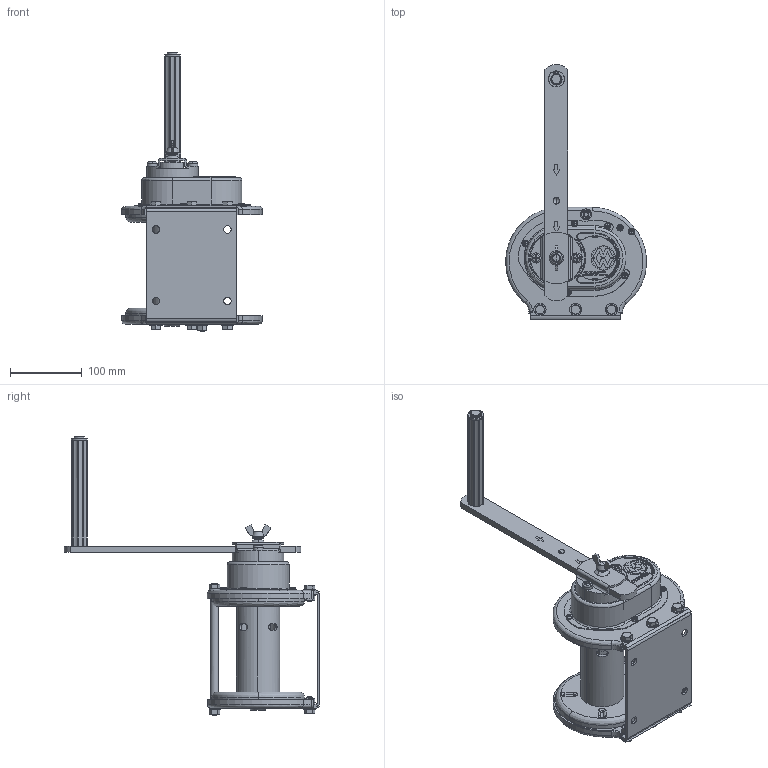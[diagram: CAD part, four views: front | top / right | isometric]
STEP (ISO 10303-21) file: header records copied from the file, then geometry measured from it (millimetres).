
FILE_DESCRIPTION( (''), '2;1');
FILE_NAME ('GM-1-SI.stp','2023-12-21T15:53:16',(''),(''),'spGate 19.8.2 (****-****-****-****)','','');
FILE_SCHEMA (('AUTOMOTIVE_DESIGN'));
Length unit declared in the file: millimetre
Products named in the file (3): Assembly; GM-1-SI-prt0; GM-1-SI-prt1
Assembly tree (2 placements, depth 2):
  Assembly
    GM-1-SI-prt0
    GM-1-SI-prt1
Bounding box: 196.82 x 356.93 x 389.8 mm (x, y, z)
Volume: 978238.4 mm3; surface area: 427560.6 mm2
Topology: 2 solids, 2 shells, 2144 faces, 5577 edges, 3508 vertices
Faces by surface type: plane 1018, cylinder 719, bspline 345, sphere 62
Entity records: 115114 total; most frequent: CARTESIAN_POINT 20454, ORIENTED_EDGE 11030, DIRECTION 10202, COLOUR_RGB 7661, PRESENTATION_STYLE_ASSIGNMENT 7661, STYLED_ITEM 7661, EDGE_CURVE 5515, DRAUGHTING_PRE_DEFINED_CURVE_FONT 5515
